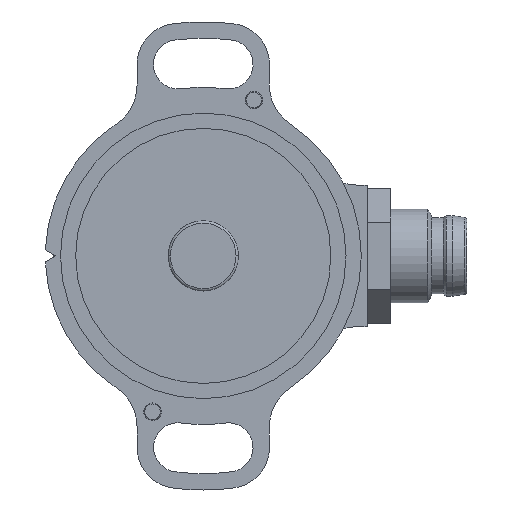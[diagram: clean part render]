
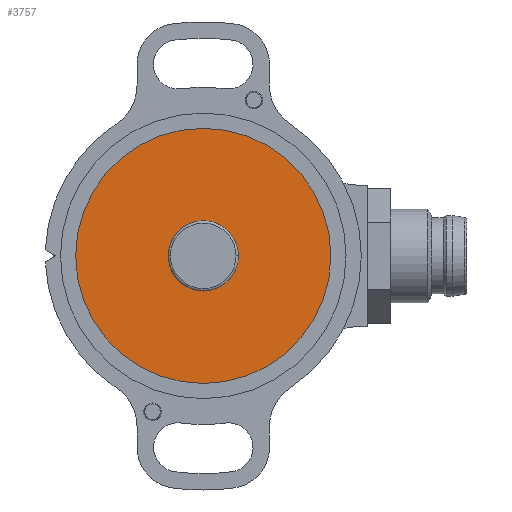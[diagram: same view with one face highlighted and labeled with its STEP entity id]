
A CAD part, front view. The second image highlights one B-rep face of the part: STEP entity #3757.
In plain terms, the highlighted planar face has unit normal (0, -1, 0).
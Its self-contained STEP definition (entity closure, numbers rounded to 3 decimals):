
#228 = DIRECTION ( 'NONE',  ( 0., 0., -1. ) ) ;
#487 = CARTESIAN_POINT ( 'NONE',  ( 0., 0., 10.9 ) ) ;
#636 = CARTESIAN_POINT ( 'NONE',  ( 0., 0., 0. ) ) ;
#664 = CIRCLE ( 'NONE', #4665, 10.9 ) ;
#849 = FACE_OUTER_BOUND ( 'NONE', #3259, .T. ) ;
#1367 = EDGE_CURVE ( 'NONE', #4392, #2986, #664, .T. ) ;
#1417 = EDGE_CURVE ( 'NONE', #2986, #4392, #3451, .T. ) ;
#2025 = DIRECTION ( 'NONE',  ( 0., 0., 1. ) ) ;
#2131 = DIRECTION ( 'NONE',  ( 0., -1., 0. ) ) ;
#2294 = ORIENTED_EDGE ( 'NONE', *, *, #1417, .T. ) ;
#2352 = DIRECTION ( 'NONE',  ( 0., 1., 0. ) ) ;
#2485 = AXIS2_PLACEMENT_3D ( 'NONE', #636, #2131, #3284 ) ;
#2516 = CARTESIAN_POINT ( 'NONE',  ( 0., 0., 0. ) ) ;
#2650 = ORIENTED_EDGE ( 'NONE', *, *, #1367, .T. ) ;
#2986 = VERTEX_POINT ( 'NONE', #3161 ) ;
#3161 = CARTESIAN_POINT ( 'NONE',  ( 0., 0., -10.9 ) ) ;
#3259 = EDGE_LOOP ( 'NONE', ( #2294, #2650 ) ) ;
#3284 = DIRECTION ( 'NONE',  ( 0., 0., -1. ) ) ;
#3451 = CIRCLE ( 'NONE', #2485, 10.9 ) ;
#3757 = ADVANCED_FACE ( 'NONE', ( #849 ), #3913, .F. ) ;
#3913 = PLANE ( 'NONE',  #4707 ) ;
#3941 = CARTESIAN_POINT ( 'NONE',  ( -18.5, 0., 0. ) ) ;
#4049 = DIRECTION ( 'NONE',  ( 0., -1., 0. ) ) ;
#4392 = VERTEX_POINT ( 'NONE', #487 ) ;
#4665 = AXIS2_PLACEMENT_3D ( 'NONE', #2516, #4049, #228 ) ;
#4707 = AXIS2_PLACEMENT_3D ( 'NONE', #3941, #2352, #2025 ) ;
